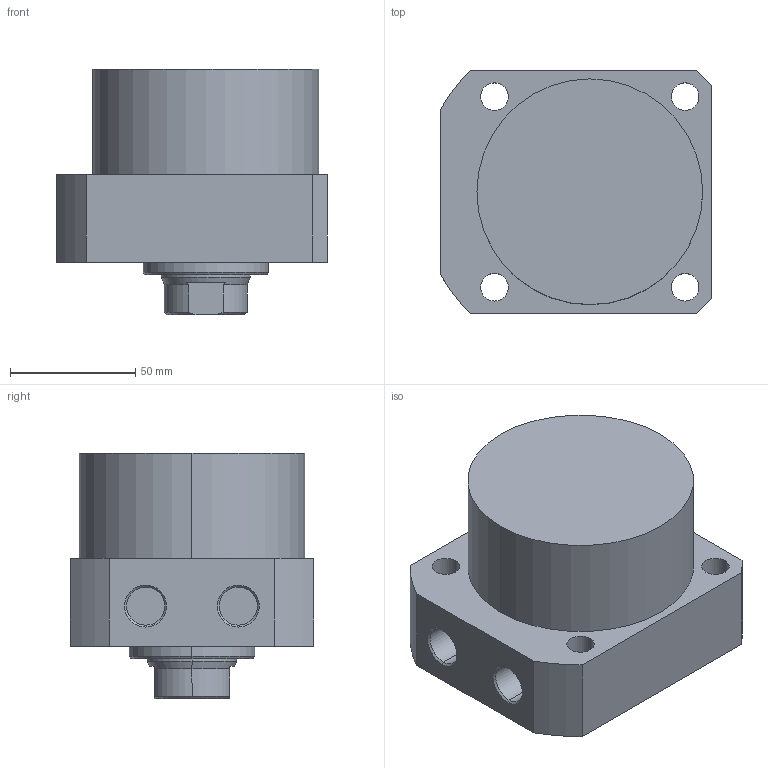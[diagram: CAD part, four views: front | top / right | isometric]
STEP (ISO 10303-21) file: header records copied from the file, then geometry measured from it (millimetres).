
FILE_DESCRIPTION (( 'STEP AP203' ), '1' );
FILE_NAME ('CLLR-090CA-020.STEP', '2019-12-19T02:13:11', ( '' ), ( '' ), 'SwSTEP 2.0', 'SolidWorks 2015', '' );
FILE_SCHEMA (( 'CONFIG_CONTROL_DESIGN' ));
Length unit declared in the file: millimetre
Products named in the file (1): CLLR-090CA-020
Bounding box: 108 x 97 x 98 mm (x, y, z)
Volume: 617455.6 mm3; surface area: 56937.8 mm2
Topology: 1 solids, 1 shells, 63 faces, 149 edges, 94 vertices
Faces by surface type: cylinder 29, plane 19, cone 15
Entity records: 1927 total; most frequent: DIRECTION 340, CARTESIAN_POINT 337, ORIENTED_EDGE 294, EDGE_CURVE 147, AXIS2_PLACEMENT_3D 137, VERTEX_POINT 94, EDGE_LOOP 79, CIRCLE 73
